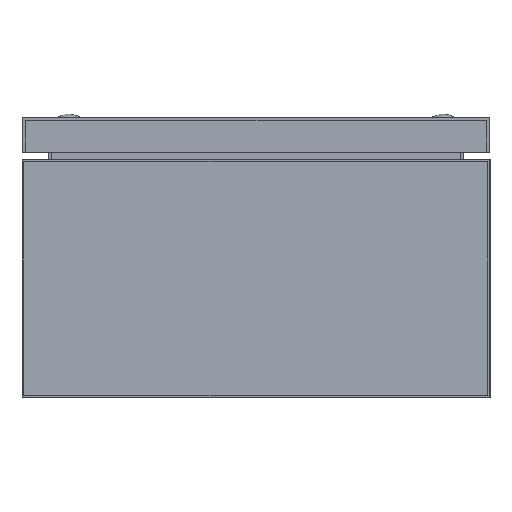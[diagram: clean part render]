
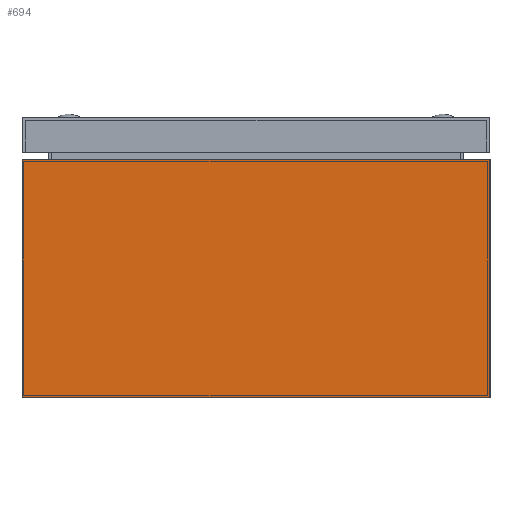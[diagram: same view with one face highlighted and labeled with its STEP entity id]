
A CAD part, left-side view. The second image highlights one B-rep face of the part: STEP entity #694.
In plain terms, the highlighted planar face has unit normal (-1, 0, 0).
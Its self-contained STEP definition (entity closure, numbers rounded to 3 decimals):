
#694 = ADVANCED_FACE( '', ( #1412 ), #1413, .F. );
#1412 = FACE_OUTER_BOUND( '', #2098, .T. );
#1413 = PLANE( '', #2099 );
#2098 = EDGE_LOOP( '', ( #3702, #3703, #3704, #3705 ) );
#2099 = AXIS2_PLACEMENT_3D( '', #3706, #3707, #3708 );
#3702 = ORIENTED_EDGE( '', *, *, #4231, .T. );
#3703 = ORIENTED_EDGE( '', *, *, #3891, .F. );
#3704 = ORIENTED_EDGE( '', *, *, #3845, .F. );
#3705 = ORIENTED_EDGE( '', *, *, #3874, .T. );
#3706 = CARTESIAN_POINT( '', ( -200., 200., -60. ) );
#3707 = DIRECTION( '', ( 1., 0., 0. ) );
#3708 = DIRECTION( '', ( 0., 0., -1. ) );
#3845 = EDGE_CURVE( '', #4550, #4551, #4552, .T. );
#3874 = EDGE_CURVE( '', #4550, #4597, #4599, .T. );
#3891 = EDGE_CURVE( '', #4551, #4624, #4625, .T. );
#4231 = EDGE_CURVE( '', #4597, #4624, #5120, .T. );
#4550 = VERTEX_POINT( '', #5531 );
#4551 = VERTEX_POINT( '', #5532 );
#4552 = LINE( '', #5533, #5534 );
#4597 = VERTEX_POINT( '', #5591 );
#4599 = LINE( '', #5594, #5595 );
#4624 = VERTEX_POINT( '', #5631 );
#4625 = LINE( '', #5632, #5633 );
#5120 = LINE( '', #6293, #6294 );
#5531 = CARTESIAN_POINT( '', ( -200., 200., -60. ) );
#5532 = CARTESIAN_POINT( '', ( -200., 200., 42. ) );
#5533 = CARTESIAN_POINT( '', ( -200., 200., -60. ) );
#5534 = VECTOR( '', #6591, 1000. );
#5591 = CARTESIAN_POINT( '', ( -200., 0., -60. ) );
#5594 = CARTESIAN_POINT( '', ( -200., 200., -60. ) );
#5595 = VECTOR( '', #6626, 1000. );
#5631 = CARTESIAN_POINT( '', ( -200., 0., 42. ) );
#5632 = CARTESIAN_POINT( '', ( -200., 200., 42. ) );
#5633 = VECTOR( '', #6641, 1000. );
#6293 = CARTESIAN_POINT( '', ( -200., 0., -60. ) );
#6294 = VECTOR( '', #7032, 1000. );
#6591 = DIRECTION( '', ( 0., 0., 1. ) );
#6626 = DIRECTION( '', ( 0., -1., 0. ) );
#6641 = DIRECTION( '', ( 0., -1., 0. ) );
#7032 = DIRECTION( '', ( 0., 0., 1. ) );
